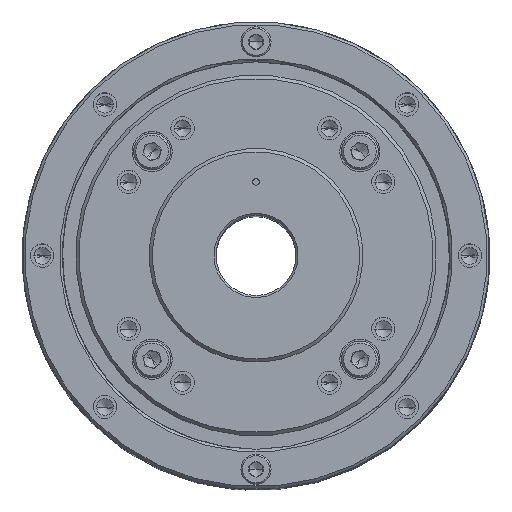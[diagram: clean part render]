
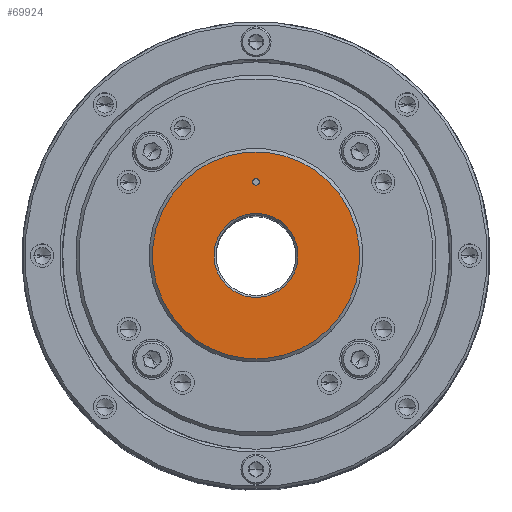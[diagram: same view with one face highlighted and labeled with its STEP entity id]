
A CAD part, top view. The second image highlights one B-rep face of the part: STEP entity #69924.
In plain terms, the highlighted planar face has unit normal (0, 0, 1).
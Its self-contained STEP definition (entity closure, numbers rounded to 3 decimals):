
#716 = EDGE_CURVE ( 'NONE', #48190, #37091, #68195, .T. ) ;
#3181 = VERTEX_POINT ( 'NONE', #13635 ) ;
#3871 = AXIS2_PLACEMENT_3D ( 'NONE', #56259, #5932, #11789 ) ;
#4984 = DIRECTION ( 'NONE',  ( 0.707, -0.707, 0. ) ) ;
#5932 = DIRECTION ( 'NONE',  ( 0., 0., -1. ) ) ;
#6637 = AXIS2_PLACEMENT_3D ( 'NONE', #49816, #43498, #37233 ) ;
#11789 = DIRECTION ( 'NONE',  ( 0.707, -0.707, 0. ) ) ;
#13635 = CARTESIAN_POINT ( 'NONE',  ( -0.354, 11.354, -3.9 ) ) ;
#14018 = AXIS2_PLACEMENT_3D ( 'NONE', #38563, #58259, #19305 ) ;
#14348 = ORIENTED_EDGE ( 'NONE', *, *, #22828, .T. ) ;
#14858 = DIRECTION ( 'NONE',  ( 0.707, -0.707, 0. ) ) ;
#14989 = CIRCLE ( 'NONE', #39113, 15.5 ) ;
#15275 = CARTESIAN_POINT ( 'NONE',  ( 0., 0., -3.9 ) ) ;
#15644 = EDGE_CURVE ( 'NONE', #3181, #44548, #64158, .T. ) ;
#16175 = CARTESIAN_POINT ( 'NONE',  ( -10.96, 10.96, -3.9 ) ) ;
#16447 = CARTESIAN_POINT ( 'NONE',  ( 0., 0., -3.9 ) ) ;
#17758 = VERTEX_POINT ( 'NONE', #16175 ) ;
#17787 = CIRCLE ( 'NONE', #58001, 0.5 ) ;
#18686 = PLANE ( 'NONE',  #82057 ) ;
#19305 = DIRECTION ( 'NONE',  ( 0.707, -0.707, 0. ) ) ;
#19403 = CARTESIAN_POINT ( 'NONE',  ( 10.96, -10.96, -3.9 ) ) ;
#19520 = DIRECTION ( 'NONE',  ( 0., 0., -1. ) ) ;
#19735 = EDGE_CURVE ( 'NONE', #37091, #48190, #35716, .T. ) ;
#21916 = DIRECTION ( 'NONE',  ( 0., 0., 1. ) ) ;
#22610 = ORIENTED_EDGE ( 'NONE', *, *, #15644, .F. ) ;
#22828 = EDGE_CURVE ( 'NONE', #79133, #17758, #14989, .T. ) ;
#23025 = ORIENTED_EDGE ( 'NONE', *, *, #26404, .T. ) ;
#24765 = CIRCLE ( 'NONE', #14018, 15.5 ) ;
#25419 = ORIENTED_EDGE ( 'NONE', *, *, #716, .T. ) ;
#26404 = EDGE_CURVE ( 'NONE', #17758, #79133, #24765, .T. ) ;
#27728 = AXIS2_PLACEMENT_3D ( 'NONE', #32089, #19520, #38773 ) ;
#27776 = EDGE_LOOP ( 'NONE', ( #68500, #22610 ) ) ;
#27803 = DIRECTION ( 'NONE',  ( 0., 0., 1. ) ) ;
#28013 = ORIENTED_EDGE ( 'NONE', *, *, #19735, .T. ) ;
#32089 = CARTESIAN_POINT ( 'NONE',  ( 0., 0., -3.9 ) ) ;
#35716 = CIRCLE ( 'NONE', #27728, 6.3 ) ;
#37091 = VERTEX_POINT ( 'NONE', #55363 ) ;
#37233 = DIRECTION ( 'NONE',  ( 0.707, -0.707, 0. ) ) ;
#38563 = CARTESIAN_POINT ( 'NONE',  ( 0., 0., -3.9 ) ) ;
#38773 = DIRECTION ( 'NONE',  ( 0.707, -0.707, 0. ) ) ;
#39113 = AXIS2_PLACEMENT_3D ( 'NONE', #16447, #21916, #79878 ) ;
#42880 = CARTESIAN_POINT ( 'NONE',  ( 4.455, -4.455, -3.9 ) ) ;
#43498 = DIRECTION ( 'NONE',  ( 0., 0., 1. ) ) ;
#44548 = VERTEX_POINT ( 'NONE', #81674 ) ;
#47475 = CARTESIAN_POINT ( 'NONE',  ( 0., 11., -3.9 ) ) ;
#48190 = VERTEX_POINT ( 'NONE', #42880 ) ;
#49816 = CARTESIAN_POINT ( 'NONE',  ( 0., 11., -3.9 ) ) ;
#52102 = EDGE_LOOP ( 'NONE', ( #23025, #14348 ) ) ;
#55363 = CARTESIAN_POINT ( 'NONE',  ( -4.455, 4.455, -3.9 ) ) ;
#56259 = CARTESIAN_POINT ( 'NONE',  ( 0., 0., -3.9 ) ) ;
#58001 = AXIS2_PLACEMENT_3D ( 'NONE', #47475, #27803, #4984 ) ;
#58259 = DIRECTION ( 'NONE',  ( 0., 0., 1. ) ) ;
#58909 = DIRECTION ( 'NONE',  ( 0., 0., 1. ) ) ;
#63945 = EDGE_CURVE ( 'NONE', #44548, #3181, #17787, .T. ) ;
#64158 = CIRCLE ( 'NONE', #6637, 0.5 ) ;
#68195 = CIRCLE ( 'NONE', #3871, 6.3 ) ;
#68500 = ORIENTED_EDGE ( 'NONE', *, *, #63945, .F. ) ;
#69924 = ADVANCED_FACE ( 'NONE', ( #71132, #76198, #70288 ), #18686, .T. ) ;
#70288 = FACE_BOUND ( 'NONE', #81702, .T. ) ;
#71132 = FACE_OUTER_BOUND ( 'NONE', #52102, .T. ) ;
#76198 = FACE_BOUND ( 'NONE', #27776, .T. ) ;
#79133 = VERTEX_POINT ( 'NONE', #19403 ) ;
#79878 = DIRECTION ( 'NONE',  ( 0.707, -0.707, 0. ) ) ;
#81674 = CARTESIAN_POINT ( 'NONE',  ( 0.354, 10.646, -3.9 ) ) ;
#81702 = EDGE_LOOP ( 'NONE', ( #25419, #28013 ) ) ;
#82057 = AXIS2_PLACEMENT_3D ( 'NONE', #15275, #58909, #14858 ) ;
